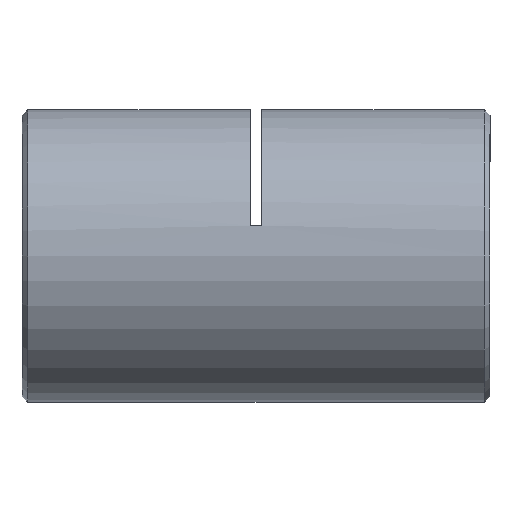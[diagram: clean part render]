
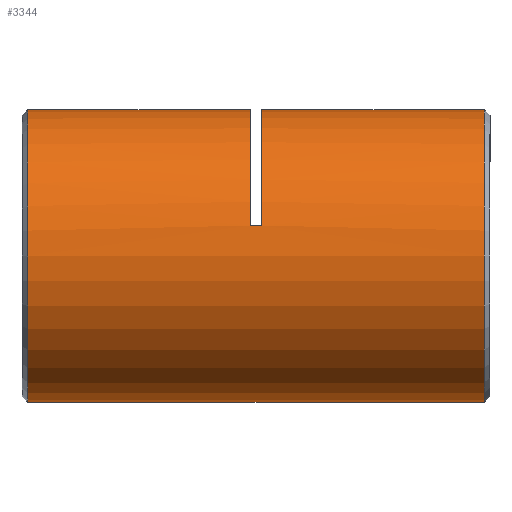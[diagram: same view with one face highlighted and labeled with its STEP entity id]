
A CAD part, left-side view. The second image highlights one B-rep face of the part: STEP entity #3344.
In plain terms, the highlighted cylindrical face has radius 12.5 mm (diameter 25 mm), a partial arc.
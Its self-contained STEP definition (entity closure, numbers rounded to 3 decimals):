
#90 = DIRECTION ( 'NONE',  ( 0., 0., 1. ) ) ;
#442 = CIRCLE ( 'NONE', #815, 12.5 ) ;
#504 = CARTESIAN_POINT ( 'NONE',  ( 0., 39.75, -12.5 ) ) ;
#512 = AXIS2_PLACEMENT_3D ( 'NONE', #2164, #3928, #2576 ) ;
#535 = CARTESIAN_POINT ( 'NONE',  ( 0., 40.5, 12.5 ) ) ;
#700 = DIRECTION ( 'NONE',  ( 0., 0., 1. ) ) ;
#728 = CARTESIAN_POINT ( 'NONE',  ( 0., 20.75, 12.5 ) ) ;
#815 = AXIS2_PLACEMENT_3D ( 'NONE', #3870, #4758, #2392 ) ;
#834 = FACE_OUTER_BOUND ( 'NONE', #5379, .T. ) ;
#925 = VERTEX_POINT ( 'NONE', #4815 ) ;
#973 = LINE ( 'NONE', #535, #2394 ) ;
#1017 = ORIENTED_EDGE ( 'NONE', *, *, #5529, .F. ) ;
#1251 = CIRCLE ( 'NONE', #4861, 12.5 ) ;
#1778 = CYLINDRICAL_SURFACE ( 'NONE', #512, 12.5 ) ;
#1838 = CIRCLE ( 'NONE', #4789, 12.5 ) ;
#1976 = CARTESIAN_POINT ( 'NONE',  ( -12.226, 19.75, 2.604 ) ) ;
#1991 = LINE ( 'NONE', #3823, #5829 ) ;
#2164 = CARTESIAN_POINT ( 'NONE',  ( 0., 40.5, 0. ) ) ;
#2188 = CARTESIAN_POINT ( 'NONE',  ( 0., 19.75, 12.5 ) ) ;
#2268 = EDGE_CURVE ( 'NONE', #925, #4510, #3439, .T. ) ;
#2339 = EDGE_CURVE ( 'NONE', #4950, #4510, #1251, .T. ) ;
#2379 = EDGE_CURVE ( 'NONE', #4909, #5777, #973, .T. ) ;
#2392 = DIRECTION ( 'NONE',  ( 0., 0., 1. ) ) ;
#2394 = VECTOR ( 'NONE', #3121, 1000. ) ;
#2576 = DIRECTION ( 'NONE',  ( 0., 0., -1. ) ) ;
#2740 = VERTEX_POINT ( 'NONE', #504 ) ;
#2781 = EDGE_CURVE ( 'NONE', #925, #2740, #5527, .T. ) ;
#2885 = VECTOR ( 'NONE', #4860, 1000. ) ;
#2959 = EDGE_CURVE ( 'NONE', #2740, #5201, #4926, .T. ) ;
#2969 = ORIENTED_EDGE ( 'NONE', *, *, #3969, .T. ) ;
#3083 = ORIENTED_EDGE ( 'NONE', *, *, #2781, .T. ) ;
#3095 = CARTESIAN_POINT ( 'NONE',  ( -12.226, 20.75, 2.604 ) ) ;
#3121 = DIRECTION ( 'NONE',  ( 0., -1., 0. ) ) ;
#3143 = CARTESIAN_POINT ( 'NONE',  ( 0., 0.75, 12.5 ) ) ;
#3170 = DIRECTION ( 'NONE',  ( 0., -1., 0. ) ) ;
#3314 = CARTESIAN_POINT ( 'NONE',  ( 0., 39.75, 0. ) ) ;
#3344 = ADVANCED_FACE ( 'NONE', ( #834 ), #1778, .T. ) ;
#3377 = DIRECTION ( 'NONE',  ( 0., 1., 0. ) ) ;
#3439 = LINE ( 'NONE', #4541, #2885 ) ;
#3748 = AXIS2_PLACEMENT_3D ( 'NONE', #3314, #5116, #5085 ) ;
#3789 = DIRECTION ( 'NONE',  ( 0., 1., 0. ) ) ;
#3823 = CARTESIAN_POINT ( 'NONE',  ( -12.226, 20.25, 2.604 ) ) ;
#3870 = CARTESIAN_POINT ( 'NONE',  ( 0., 19.75, 0. ) ) ;
#3928 = DIRECTION ( 'NONE',  ( 0., -1., 0. ) ) ;
#3969 = EDGE_CURVE ( 'NONE', #5201, #5777, #1838, .T. ) ;
#4233 = ORIENTED_EDGE ( 'NONE', *, *, #2379, .F. ) ;
#4257 = CARTESIAN_POINT ( 'NONE',  ( 0., 0.75, 0. ) ) ;
#4258 = CARTESIAN_POINT ( 'NONE',  ( 0., 0.75, -12.5 ) ) ;
#4395 = VECTOR ( 'NONE', #3170, 1000. ) ;
#4510 = VERTEX_POINT ( 'NONE', #728 ) ;
#4541 = CARTESIAN_POINT ( 'NONE',  ( 0., 40.5, 12.5 ) ) ;
#4574 = DIRECTION ( 'NONE',  ( 0., 1., 0. ) ) ;
#4756 = EDGE_CURVE ( 'NONE', #5532, #4950, #1991, .T. ) ;
#4758 = DIRECTION ( 'NONE',  ( 0., 1., 0. ) ) ;
#4789 = AXIS2_PLACEMENT_3D ( 'NONE', #4257, #3789, #700 ) ;
#4815 = CARTESIAN_POINT ( 'NONE',  ( 0., 39.75, 12.5 ) ) ;
#4860 = DIRECTION ( 'NONE',  ( 0., -1., 0. ) ) ;
#4861 = AXIS2_PLACEMENT_3D ( 'NONE', #5508, #4574, #90 ) ;
#4909 = VERTEX_POINT ( 'NONE', #2188 ) ;
#4926 = LINE ( 'NONE', #5408, #4395 ) ;
#4950 = VERTEX_POINT ( 'NONE', #3095 ) ;
#5014 = ORIENTED_EDGE ( 'NONE', *, *, #2959, .T. ) ;
#5085 = DIRECTION ( 'NONE',  ( 0., 0., -1. ) ) ;
#5116 = DIRECTION ( 'NONE',  ( 0., -1., 0. ) ) ;
#5132 = ORIENTED_EDGE ( 'NONE', *, *, #4756, .T. ) ;
#5201 = VERTEX_POINT ( 'NONE', #4258 ) ;
#5379 = EDGE_LOOP ( 'NONE', ( #5388, #3083, #5014, #2969, #4233, #1017, #5132, #5780 ) ) ;
#5388 = ORIENTED_EDGE ( 'NONE', *, *, #2268, .F. ) ;
#5408 = CARTESIAN_POINT ( 'NONE',  ( 0., 40.5, -12.5 ) ) ;
#5508 = CARTESIAN_POINT ( 'NONE',  ( 0., 20.75, 0. ) ) ;
#5527 = CIRCLE ( 'NONE', #3748, 12.5 ) ;
#5529 = EDGE_CURVE ( 'NONE', #5532, #4909, #442, .T. ) ;
#5532 = VERTEX_POINT ( 'NONE', #1976 ) ;
#5777 = VERTEX_POINT ( 'NONE', #3143 ) ;
#5780 = ORIENTED_EDGE ( 'NONE', *, *, #2339, .T. ) ;
#5829 = VECTOR ( 'NONE', #3377, 1000. ) ;
